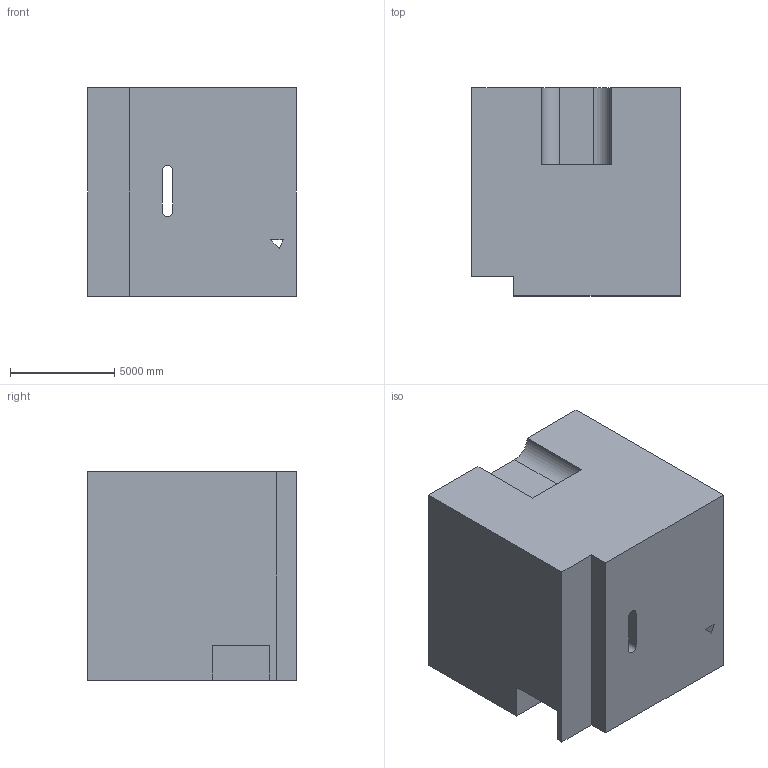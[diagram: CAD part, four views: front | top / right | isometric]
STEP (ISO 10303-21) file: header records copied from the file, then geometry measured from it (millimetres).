
FILE_DESCRIPTION (( 'STEP AP203' ), '1' );
FILE_NAME ('48.STEP', '2022-08-30T14:11:21', ( 'user' ), ( '' ), 'SwSTEP 2.0', 'SolidWorks 2021', '' );
FILE_SCHEMA (( 'CONFIG_CONTROL_DESIGN' ));
Length unit declared in the file: centimetre
Products named in the file (1): 48
Bounding box: 10000 x 10000 x 10000 mm (x, y, z)
Volume: 934287488529.7 mm3; surface area: 686091982.1 mm2
Topology: 1 solids, 1 shells, 24 faces, 66 edges, 44 vertices
Faces by surface type: plane 19, cylinder 5
Entity records: 845 total; most frequent: CARTESIAN_POINT 135, ORIENTED_EDGE 132, DIRECTION 126, EDGE_CURVE 66, LINE 56, VECTOR 56, VERTEX_POINT 44, AXIS2_PLACEMENT_3D 35
